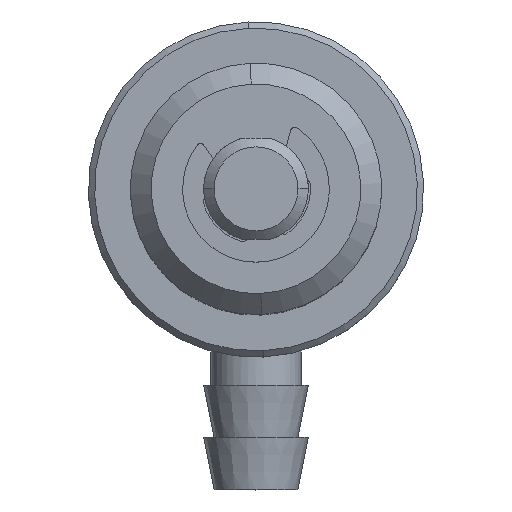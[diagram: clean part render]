
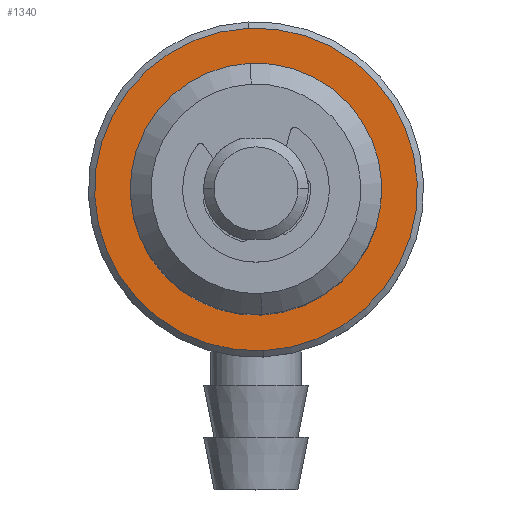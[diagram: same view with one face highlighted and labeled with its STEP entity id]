
A CAD part, top view. The second image highlights one B-rep face of the part: STEP entity #1340.
In plain terms, the highlighted planar face has unit normal (0, 0, 1).
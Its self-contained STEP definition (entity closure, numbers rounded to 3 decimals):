
#5 = ORIENTED_EDGE ( 'NONE', *, *, #2487, .T. ) ;
#90 = EDGE_CURVE ( 'NONE', #2658, #2172, #3433, .T. ) ;
#107 = ORIENTED_EDGE ( 'NONE', *, *, #90, .T. ) ;
#540 = FACE_OUTER_BOUND ( 'NONE', #3208, .T. ) ;
#674 = ORIENTED_EDGE ( 'NONE', *, *, #5138, .F. ) ;
#774 = DIRECTION ( 'NONE',  ( 0.046, -0.999, 0. ) ) ;
#877 = EDGE_LOOP ( 'NONE', ( #1286, #674 ) ) ;
#993 = CARTESIAN_POINT ( 'NONE',  ( 9.663, 78.717, -153.247 ) ) ;
#1113 = VERTEX_POINT ( 'NONE', #4476 ) ;
#1216 = AXIS2_PLACEMENT_3D ( 'NONE', #993, #1418, #1877 ) ;
#1268 = CIRCLE ( 'NONE', #1216, 6. ) ;
#1286 = ORIENTED_EDGE ( 'NONE', *, *, #5742, .F. ) ;
#1319 = CARTESIAN_POINT ( 'NONE',  ( 9.663, 78.717, -153.247 ) ) ;
#1340 = ADVANCED_FACE ( 'NONE', ( #540, #2396 ), #1608, .T. ) ;
#1418 = DIRECTION ( 'NONE',  ( 0., 0., 1. ) ) ;
#1608 = PLANE ( 'NONE',  #4266 ) ;
#1877 = DIRECTION ( 'NONE',  ( 0.046, -0.999, 0. ) ) ;
#1900 = CIRCLE ( 'NONE', #4551, 6. ) ;
#1990 = CARTESIAN_POINT ( 'NONE',  ( 10.014, 71.025, -153.247 ) ) ;
#2056 = CARTESIAN_POINT ( 'NONE',  ( 15.657, 78.991, -153.247 ) ) ;
#2098 = DIRECTION ( 'NONE',  ( 0., 0., 1. ) ) ;
#2172 = VERTEX_POINT ( 'NONE', #1990 ) ;
#2220 = DIRECTION ( 'NONE',  ( 0., 0., 1. ) ) ;
#2396 = FACE_BOUND ( 'NONE', #877, .T. ) ;
#2487 = EDGE_CURVE ( 'NONE', #2172, #2658, #4893, .T. ) ;
#2502 = AXIS2_PLACEMENT_3D ( 'NONE', #4073, #4012, #5387 ) ;
#2658 = VERTEX_POINT ( 'NONE', #4131 ) ;
#3032 = DIRECTION ( 'NONE',  ( 0., 0., 1. ) ) ;
#3208 = EDGE_LOOP ( 'NONE', ( #107, #5 ) ) ;
#3433 = CIRCLE ( 'NONE', #3919, 7.7 ) ;
#3524 = CARTESIAN_POINT ( 'NONE',  ( 9.39, 84.711, -153.247 ) ) ;
#3618 = DIRECTION ( 'NONE',  ( 0.046, -0.999, 0. ) ) ;
#3901 = VERTEX_POINT ( 'NONE', #3524 ) ;
#3919 = AXIS2_PLACEMENT_3D ( 'NONE', #4521, #2220, #3618 ) ;
#4012 = DIRECTION ( 'NONE',  ( 0., 0., 1. ) ) ;
#4073 = CARTESIAN_POINT ( 'NONE',  ( 9.663, 78.717, -153.247 ) ) ;
#4131 = CARTESIAN_POINT ( 'NONE',  ( 9.312, 86.409, -153.247 ) ) ;
#4266 = AXIS2_PLACEMENT_3D ( 'NONE', #2056, #2098, #5218 ) ;
#4476 = CARTESIAN_POINT ( 'NONE',  ( 9.936, 72.724, -153.247 ) ) ;
#4521 = CARTESIAN_POINT ( 'NONE',  ( 9.663, 78.717, -153.247 ) ) ;
#4551 = AXIS2_PLACEMENT_3D ( 'NONE', #1319, #3032, #774 ) ;
#4893 = CIRCLE ( 'NONE', #2502, 7.7 ) ;
#5138 = EDGE_CURVE ( 'NONE', #3901, #1113, #1268, .T. ) ;
#5218 = DIRECTION ( 'NONE',  ( 0.046, -0.999, 0. ) ) ;
#5387 = DIRECTION ( 'NONE',  ( 0.046, -0.999, 0. ) ) ;
#5742 = EDGE_CURVE ( 'NONE', #1113, #3901, #1900, .T. ) ;
